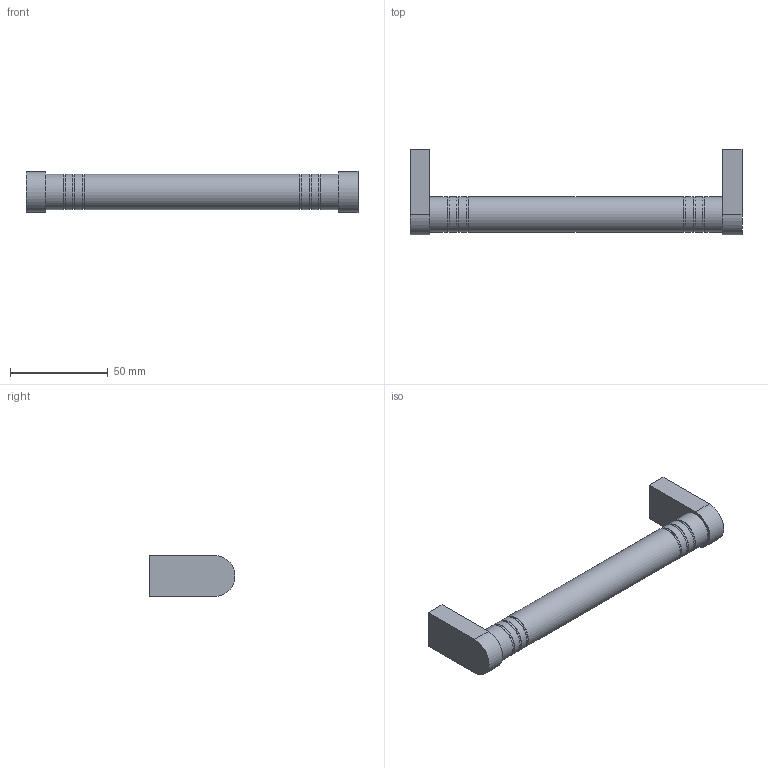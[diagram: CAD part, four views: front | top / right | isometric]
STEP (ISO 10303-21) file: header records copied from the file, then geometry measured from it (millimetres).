
FILE_DESCRIPTION( ( 'STEP AP214' ), '1' );
FILE_NAME( 'C:/Users/kulkarni/Desktop/Apurva/2015/Prodecor_2016/Cadfiles/cerra/9207448.stp', ' ', ( ' ' ), ( ' ' ), 'PSStep 15.0.47', 'PARTsolutions', ' ' );
FILE_SCHEMA( ( 'AUTOMOTIVE_DESIGN { 1 0 10303 214 1 1 1 1 }' ) );
Length unit declared in the file: millimetre
Products named in the file (2): 95 ; _
Assembly tree (1 placements, depth 2):
  95 
    _
Bounding box: 170 x 44 x 21 mm (x, y, z)
Volume: 55419.2 mm3; surface area: 14258.7 mm2
Topology: 1 solids, 1 shells, 41 faces, 69 edges, 46 vertices
Faces by surface type: plane 24, cylinder 17
Full cylindrical faces by diameter (mm): 4 x2, 17.5 x6, 18 x7
Entity records: 1268 total; most frequent: DIRECTION 174, CARTESIAN_POINT 143, ORIENTED_EDGE 108, AXIS2_PLACEMENT_3D 77, EDGE_LOOP 72, FACE_OUTER_BOUND 56, EDGE_CURVE 54, VERTEX_POINT 46
